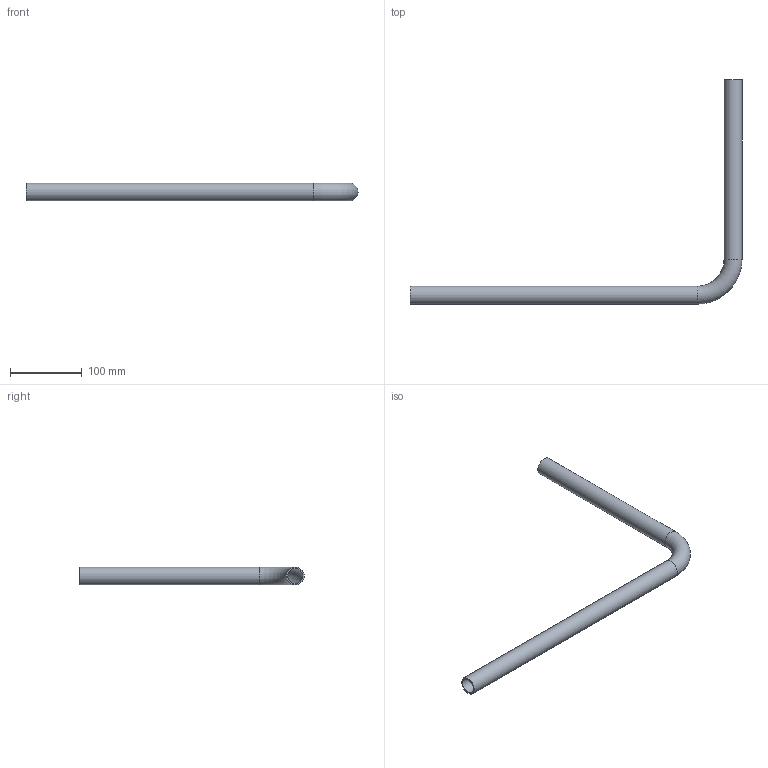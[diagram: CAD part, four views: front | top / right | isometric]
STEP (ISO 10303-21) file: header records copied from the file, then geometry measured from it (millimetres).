
FILE_DESCRIPTION(/* description */ (''),/* implementation_level */ '2;1');
FILE_NAME(/* name */ 'TP00003_R001.step',/* time_stamp */ '2026-10-05T10:20:25+07:00',/* author */ (''),/* organization */ (''),/* preprocessor_version */ 'ST-DEVELOPER v20.2',/* originating_system */ 'Autodesk Translation Framework v15.15.0.0',/* authorisation */ '');
FILE_SCHEMA (('AUTOMOTIVE_DESIGN { 1 0 10303 214 3 1 1 }'));
Length unit declared in the file: millimetre
Products named in the file (1): 2026-10-05-10-20-25-720
Bounding box: 462.5 x 312.5 x 25 mm (x, y, z)
Volume: 105283.7 mm3; surface area: 105572.7 mm2
Topology: 1 solids, 1 shells, 8 faces, 18 edges, 12 vertices
Faces by surface type: cylinder 4, torus 2, plane 2
Full cylindrical faces by diameter (mm): 21 x2, 25 x2
Entity records: 273 total; most frequent: DIRECTION 50, CARTESIAN_POINT 39, ORIENTED_EDGE 36, AXIS2_PLACEMENT_3D 23, EDGE_CURVE 18, CIRCLE 14, VERTEX_POINT 12, EDGE_LOOP 10
